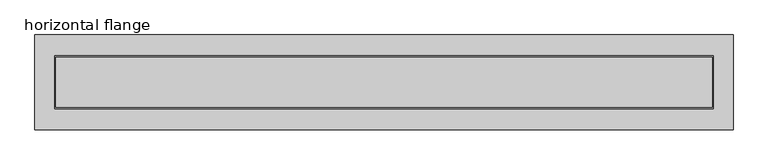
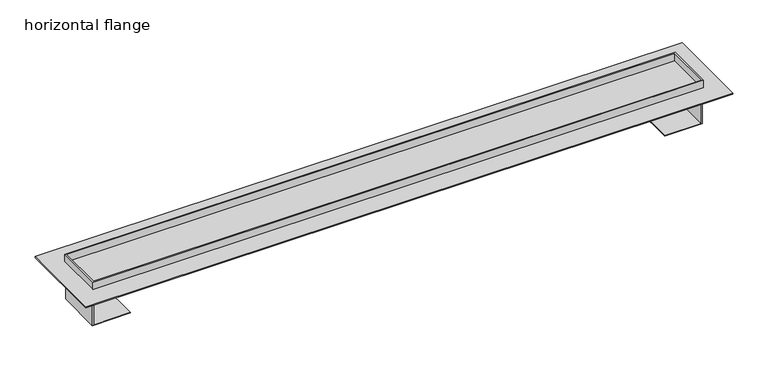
"""IFC4 building model written with IfcOpenShell, lengths in millimetres: sanitary terminal geometry, PF_ST_UN_ShowerDrain M_ACO : horizontal flange."""

from ifc_helpers import new_model, si_unit, frame, origin, origin_with_axes, place, context, project, spatial, polyline, outline, extrude, faceted_brep, source, transform, mapped, element, save


def horizontal_flange_2512d45c(model_context):
    return source(origin(), model_context, "Body", "SolidModel", [
        extrude(outline(polyline([(530.0, 72.0), (530.0, -72.0), (-530.0, -72.0), (-530.0, 72.0), (530.0, 72.0)])), origin_with_axes(), (0.0, 0.0, 1.0), 2.0),
        extrude(outline(polyline([(-16.5, -498.0), (-16.5, -500.0), (-61.5, -500.0), (-61.5, -438.0), (-60.5, -438.0), (-60.5, -498.0), (-16.5, -498.0)])), frame((0.0, -38.0, 0.0), z_axis=(0.0, 1.0, 0.0), x_axis=(0.0, 0.0, 1.0)), (0.0, 0.0, 1.0), 76.0),
        extrude(outline(polyline([(-16.5, 498.0), (-60.5, 498.0), (-60.5, 438.0), (-61.5, 438.0), (-61.5, 500.0), (-16.5, 500.0), (-16.5, 498.0)])), frame((0.0, -38.0, 0.0), z_axis=(0.0, 1.0, 0.0), x_axis=(0.0, 0.0, 1.0)), (0.0, 0.0, 1.0), 76.0),
        faceted_brep([(500.0, 40.0, 15.0), (-500.0, 40.0, 15.0), (-500.0, -40.0, 15.0), (500.0, -40.0, 15.0), (-498.0, -38.0, 15.0), (-498.0, 38.0, 15.0), (498.0, 38.0, 15.0), (498.0, -38.0, 15.0), (500.0, 40.0, -16.5), (500.0, -40.0, -16.5), (-500.0, -40.0, -16.5), (-500.0, 40.0, -16.5), (-498.0, 38.0, -6.0), (-498.0, -38.0, -6.0), (498.0, -38.0, -6.0), (498.0, 38.0, -6.0)], [[[0, 1, 2, 3], [4, 5, 6, 7]], [[8, 9, 10, 11]], [[1, 0, 8, 11]], [[2, 1, 11, 10]], [[3, 2, 10, 9]], [[0, 3, 9, 8]], [[12, 13, 14, 15]], [[13, 12, 5, 4]], [[14, 13, 4, 7]], [[15, 14, 7, 6]], [[12, 15, 6, 5]]]),
    ])


if __name__ == "__main__":
    model = new_model("IFC4")
    model_context = context("Model", 3, world=origin())
    ifc_project = project(units=[si_unit("LENGTHUNIT", "METRE", prefix="MILLI")], contexts=[model_context])
    site = spatial("IfcSite", under=ifc_project)
    building = spatial("IfcBuilding", under=site)
    placement = place(None, origin())
    horizontal_flange_shape = horizontal_flange_2512d45c(model_context)
    element("IfcSanitaryTerminal", 1, ObjectType="PF_ST_UN_ShowerDrain M_ACO : horizontal flange", at=placement, inside=building, context=model_context, shape_type="MappedRepresentation", body=[
        mapped(horizontal_flange_shape, transform((0.0, 0.0, 0.0), x_axis=(1.0, 0.0, 0.0), y_axis=(0.0, 1.0, 0.0), z_axis=(0.0, 0.0, 1.0))),
    ])
    save(model, "model.ifc")
